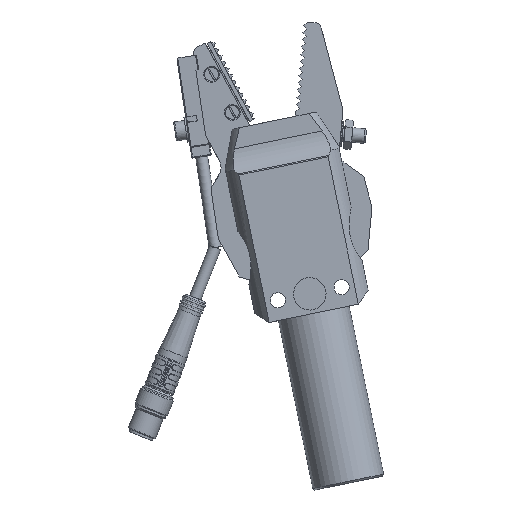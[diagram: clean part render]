
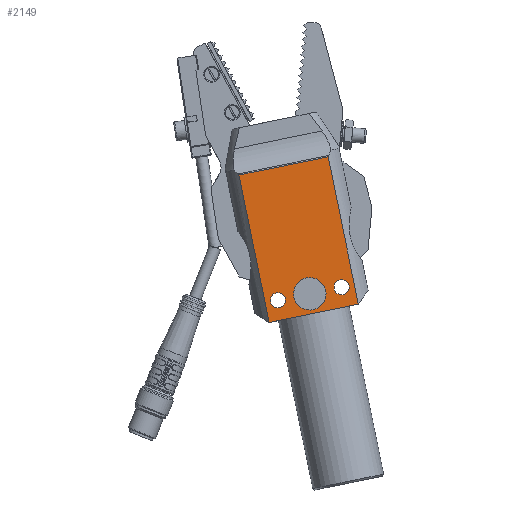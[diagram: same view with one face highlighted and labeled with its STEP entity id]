
A CAD part, front view. The second image highlights one B-rep face of the part: STEP entity #2149.
In plain terms, the highlighted planar face has unit normal (0, -1, 0).
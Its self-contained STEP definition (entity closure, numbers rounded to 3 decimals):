
#2149=ADVANCED_FACE('',(#4679,#4680,#4681,#4682),#4683,.T.);
#4679=FACE_BOUND('',#8399,.T.);
#4680=FACE_BOUND('',#8400,.T.);
#4681=FACE_BOUND('',#8401,.T.);
#4682=FACE_OUTER_BOUND('',#8402,.T.);
#4683=PLANE('',#8403);
#8399=EDGE_LOOP('',(#15869));
#8400=EDGE_LOOP('',(#15870));
#8401=EDGE_LOOP('',(#15871));
#8402=EDGE_LOOP('',(#15872,#15873,#15874,#15875));
#8403=AXIS2_PLACEMENT_3D('',#15876,#15877,#15878);
#15869=ORIENTED_EDGE('',*,*,#26256,.F.);
#15870=ORIENTED_EDGE('',*,*,#26257,.F.);
#15871=ORIENTED_EDGE('',*,*,#26258,.F.);
#15872=ORIENTED_EDGE('',*,*,#26259,.T.);
#15873=ORIENTED_EDGE('',*,*,#26260,.T.);
#15874=ORIENTED_EDGE('',*,*,#26261,.T.);
#15875=ORIENTED_EDGE('',*,*,#26244,.T.);
#15876=CARTESIAN_POINT('',(17.501,-12.0,0.0));
#15877=DIRECTION('',(0.0,-1.0,0.));
#15878=DIRECTION('',(0.0,0.,-1.0));
#26244=EDGE_CURVE('',#30375,#30373,#30376,.T.);
#26256=EDGE_CURVE('',#30393,#30393,#30394,.T.);
#26257=EDGE_CURVE('',#30395,#30395,#30396,.T.);
#26258=EDGE_CURVE('',#30397,#30397,#30398,.T.);
#26259=EDGE_CURVE('',#30373,#30399,#30400,.F.);
#26260=EDGE_CURVE('',#30399,#30401,#30402,.F.);
#26261=EDGE_CURVE('',#30401,#30375,#30403,.T.);
#30373=VERTEX_POINT('',#36569);
#30375=VERTEX_POINT('',#36571);
#30376=LINE('',#36572,#36573);
#30393=VERTEX_POINT('',#36593);
#30394=CIRCLE('',#36594,2.1);
#30395=VERTEX_POINT('',#36595);
#30396=CIRCLE('',#36596,2.1);
#30397=VERTEX_POINT('',#36597);
#30398=CIRCLE('',#36598,4.5);
#30399=VERTEX_POINT('',#36599);
#30400=LINE('',#36600,#36601);
#30401=VERTEX_POINT('',#36602);
#30402=LINE('',#36603,#36604);
#30403=LINE('',#36605,#36606);
#36569=CARTESIAN_POINT('',(-12.6,-12.0,57.0));
#36571=CARTESIAN_POINT('',(12.6,-12.0,57.0));
#36572=CARTESIAN_POINT('',(17.501,-12.0,57.0));
#36573=VECTOR('',#46054,1.0);
#36593=CARTESIAN_POINT('',(-9.0,-12.0,49.4));
#36594=AXIS2_PLACEMENT_3D('',#46073,#46074,#46075);
#36595=CARTESIAN_POINT('',(9.0,-12.0,49.4));
#36596=AXIS2_PLACEMENT_3D('',#46076,#46077,#46078);
#36597=CARTESIAN_POINT('',(0.0,-12.0,47.0));
#36598=AXIS2_PLACEMENT_3D('',#46079,#46080,#46081);
#36599=CARTESIAN_POINT('',(-12.6,-12.0,15.348));
#36600=CARTESIAN_POINT('',(-12.6,-12.0,-5.617));
#36601=VECTOR('',#46082,1.0);
#36602=CARTESIAN_POINT('',(12.6,-12.0,15.348));
#36603=CARTESIAN_POINT('',(17.501,-12.0,15.348));
#36604=VECTOR('',#46083,1.0);
#36605=CARTESIAN_POINT('',(12.6,-12.0,-5.617));
#36606=VECTOR('',#46084,1.0);
#46054=DIRECTION('',(-1.0,0.0,0.0));
#46073=CARTESIAN_POINT('',(-9.0,-12.0,51.5));
#46074=DIRECTION('',(0.0,-1.0,0.0));
#46075=DIRECTION('',(0.0,0.0,-1.0));
#46076=CARTESIAN_POINT('',(9.0,-12.0,51.5));
#46077=DIRECTION('',(0.0,-1.0,0.0));
#46078=DIRECTION('',(0.0,0.0,-1.0));
#46079=CARTESIAN_POINT('',(0.0,-12.0,51.5));
#46080=DIRECTION('',(0.0,-1.0,0.));
#46081=DIRECTION('',(0.0,0.,-1.0));
#46082=DIRECTION('',(0.0,0.0,1.0));
#46083=DIRECTION('',(-1.0,0.0,0.0));
#46084=DIRECTION('',(0.0,0.0,1.0));
